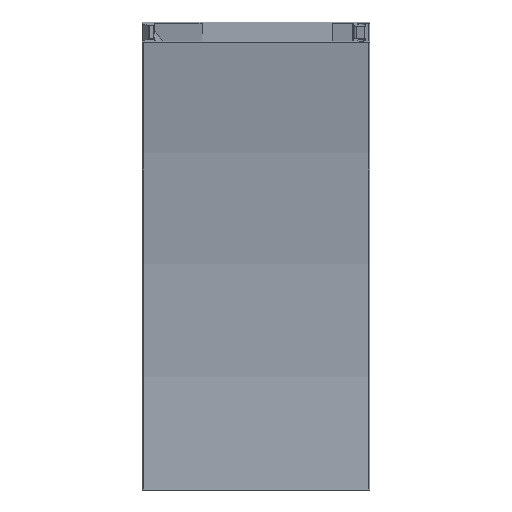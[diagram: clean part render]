
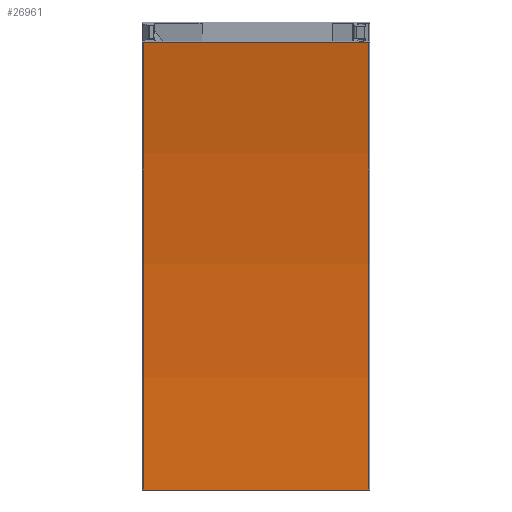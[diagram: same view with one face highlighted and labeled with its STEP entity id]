
A CAD part, left-side view. The second image highlights one B-rep face of the part: STEP entity #26961.
In plain terms, the highlighted cylindrical face has radius 722.2 mm (diameter 1444.4 mm), a partial arc.
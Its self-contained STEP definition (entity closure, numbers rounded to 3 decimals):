
#4262=CYLINDRICAL_SURFACE('',#28619,722.2);
#4449=LINE('',#37071,#5667);
#4450=LINE('',#37073,#5668);
#5667=VECTOR('',#31080,10.);
#5668=VECTOR('',#31081,10.);
#7322=FACE_OUTER_BOUND('',#8869,.T.);
#8869=EDGE_LOOP('',(#18611,#18612,#18613,#18614));
#10554=CIRCLE('',#28618,722.2);
#10555=CIRCLE('',#28620,722.2);
#11700=VERTEX_POINT('',#37064);
#11701=VERTEX_POINT('',#37066);
#11702=VERTEX_POINT('',#37070);
#11703=VERTEX_POINT('',#37072);
#14417=EDGE_CURVE('',#11700,#11701,#10554,.T.);
#14418=EDGE_CURVE('',#11702,#11700,#4449,.T.);
#14419=EDGE_CURVE('',#11703,#11701,#4450,.T.);
#14420=EDGE_CURVE('',#11702,#11703,#10555,.T.);
#18611=ORIENTED_EDGE('',*,*,#14418,.T.);
#18612=ORIENTED_EDGE('',*,*,#14417,.T.);
#18613=ORIENTED_EDGE('',*,*,#14419,.F.);
#18614=ORIENTED_EDGE('',*,*,#14420,.F.);
#26961=ADVANCED_FACE('',(#7322),#4262,.F.);
#28618=AXIS2_PLACEMENT_3D('',#37068,#31076,#31077);
#28619=AXIS2_PLACEMENT_3D('',#37069,#31078,#31079);
#28620=AXIS2_PLACEMENT_3D('',#37074,#31082,#31083);
#31076=DIRECTION('center_axis',(0.,-1.,0.));
#31077=DIRECTION('ref_axis',(1.,0.,0.));
#31078=DIRECTION('center_axis',(0.,-1.,0.));
#31079=DIRECTION('ref_axis',(1.,0.,0.));
#31080=DIRECTION('',(0.,-1.,0.));
#31081=DIRECTION('',(0.,-1.,0.));
#31082=DIRECTION('center_axis',(0.,-1.,0.));
#31083=DIRECTION('ref_axis',(1.,0.,0.));
#37064=CARTESIAN_POINT('',(-18.595,-41.736,0.));
#37066=CARTESIAN_POINT('',(-43.203,-41.736,186.919));
#37068=CARTESIAN_POINT('Origin',(-740.795,-41.736,0.));
#37069=CARTESIAN_POINT('Origin',(-740.795,5.314,0.));
#37070=CARTESIAN_POINT('',(-18.595,52.364,0.));
#37071=CARTESIAN_POINT('',(-18.595,52.364,0.));
#37072=CARTESIAN_POINT('',(-43.203,52.364,186.919));
#37073=CARTESIAN_POINT('',(-43.203,52.364,186.919));
#37074=CARTESIAN_POINT('Origin',(-740.795,52.364,0.));
